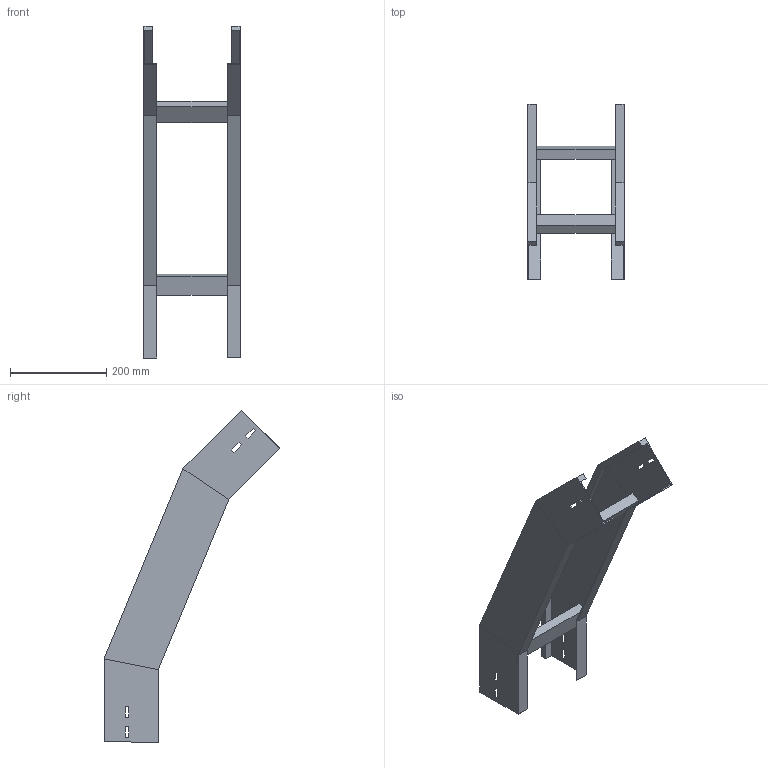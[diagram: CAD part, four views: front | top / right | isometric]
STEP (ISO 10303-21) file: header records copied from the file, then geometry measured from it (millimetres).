
FILE_DESCRIPTION (( 'STEP AP214' ), '1' );
FILE_NAME ('34B5J200.step', '2025-02-21T14:52:34', ( '' ), ( '' ), 'SwSTEP 2.0', 'SolidWorks 2023', '' );
FILE_SCHEMA (( 'AUTOMOTIVE_DESIGN' ));
Length unit declared in the file: millimetre
Products named in the file (3): LONGH.DISCESA_45°_H112.5_R500; 34B5J200; TRAVERSINO_200
Assembly tree (5 placements, depth 2):
  34B5J200
    LONGH.DISCESA_45°_H112.5_R500  x2
    TRAVERSINO_200  x3
Bounding box: 200 x 365.13 x 689.46 mm (x, y, z)
Volume: 1164496.3 mm3; surface area: 527166.6 mm2
Topology: 5 solids, 5 shells, 102 faces, 244 edges, 152 vertices
Faces by surface type: plane 102
Entity records: 1480 total; most frequent: CARTESIAN_POINT 244, ORIENTED_EDGE 232, DIRECTION 228, VECTOR 116, EDGE_CURVE 116, LINE 116, VERTEX_POINT 72, AXIS2_PLACEMENT_3D 56
